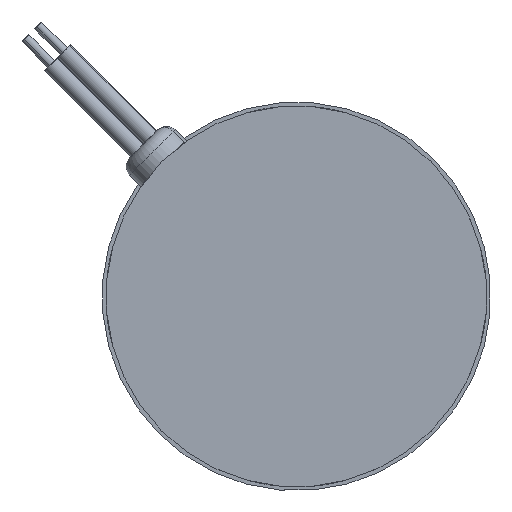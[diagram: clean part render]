
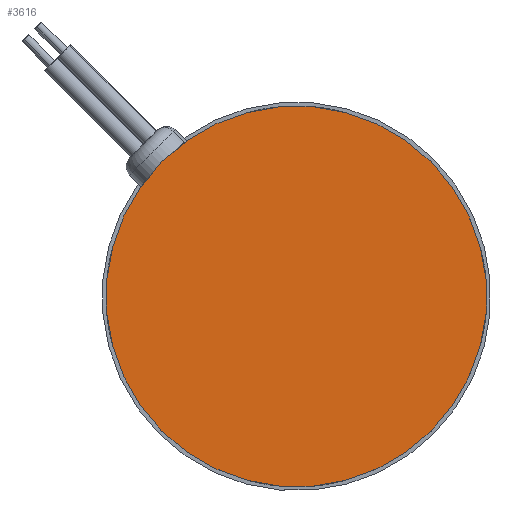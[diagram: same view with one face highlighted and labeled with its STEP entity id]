
A CAD part, left-side view. The second image highlights one B-rep face of the part: STEP entity #3616.
In plain terms, the highlighted planar face has unit normal (-1, 0, 0).
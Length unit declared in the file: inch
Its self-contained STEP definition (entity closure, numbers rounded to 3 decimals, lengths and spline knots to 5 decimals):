
#331 = ORIENTED_EDGE ( 'NONE', *, *, #3963, .F. ) ;
#1004 = CARTESIAN_POINT ( 'NONE',  ( -0.32797, 2.40744, 5.7787 ) ) ;
#1025 = PLANE ( 'NONE',  #2189 ) ;
#1138 = CIRCLE ( 'NONE', #7548, 1.5624 ) ;
#1319 = EDGE_LOOP ( 'NONE', ( #331, #7654 ) ) ;
#1565 = CARTESIAN_POINT ( 'NONE',  ( -0.32797, 4.61701, 3.56913 ) ) ;
#1899 = CARTESIAN_POINT ( 'NONE',  ( -0.32797, 3.51222, 4.67391 ) ) ;
#2189 = AXIS2_PLACEMENT_3D ( 'NONE', #2570, #8100, #8908 ) ;
#2479 = EDGE_CURVE ( 'NONE', #6690, #8964, #1138, .T. ) ;
#2555 = DIRECTION ( 'NONE',  ( 1., 0., 0. ) ) ;
#2570 = CARTESIAN_POINT ( 'NONE',  ( -0.32797, 3.51222, 4.67391 ) ) ;
#3358 = CARTESIAN_POINT ( 'NONE',  ( -0.32797, 3.51222, 4.67391 ) ) ;
#3616 = ADVANCED_FACE ( 'NONE', ( #5968 ), #1025, .F. ) ;
#3963 = EDGE_CURVE ( 'NONE', #8964, #6690, #9070, .T. ) ;
#4156 = DIRECTION ( 'NONE',  ( 0., -0.707, 0.707 ) ) ;
#5835 = AXIS2_PLACEMENT_3D ( 'NONE', #3358, #8900, #4156 ) ;
#5968 = FACE_OUTER_BOUND ( 'NONE', #1319, .T. ) ;
#6690 = VERTEX_POINT ( 'NONE', #1004 ) ;
#7548 = AXIS2_PLACEMENT_3D ( 'NONE', #1899, #2555, #8956 ) ;
#7654 = ORIENTED_EDGE ( 'NONE', *, *, #2479, .F. ) ;
#8100 = DIRECTION ( 'NONE',  ( 1., 0., 0. ) ) ;
#8900 = DIRECTION ( 'NONE',  ( 1., 0., 0. ) ) ;
#8908 = DIRECTION ( 'NONE',  ( 0., -0.707, 0.707 ) ) ;
#8956 = DIRECTION ( 'NONE',  ( 0., -0.707, 0.707 ) ) ;
#8964 = VERTEX_POINT ( 'NONE', #1565 ) ;
#9070 = CIRCLE ( 'NONE', #5835, 1.5624 ) ;
